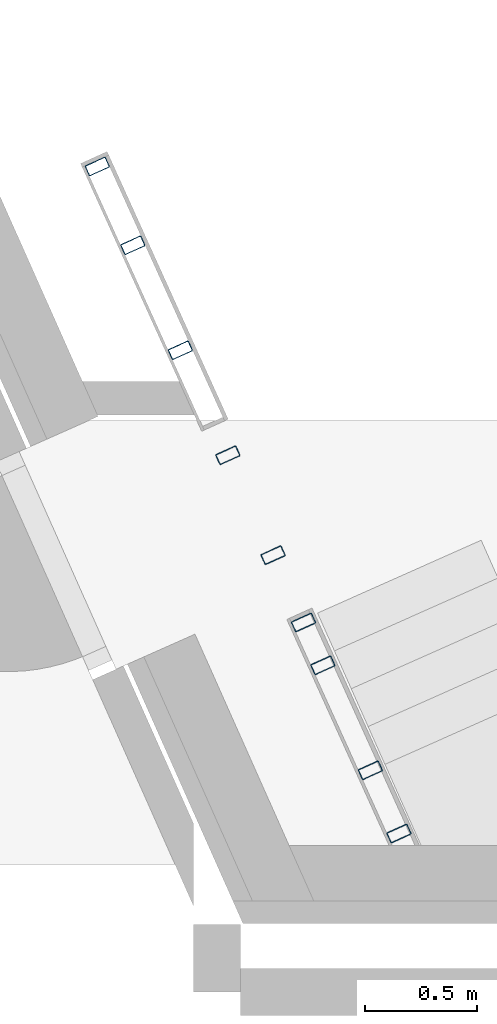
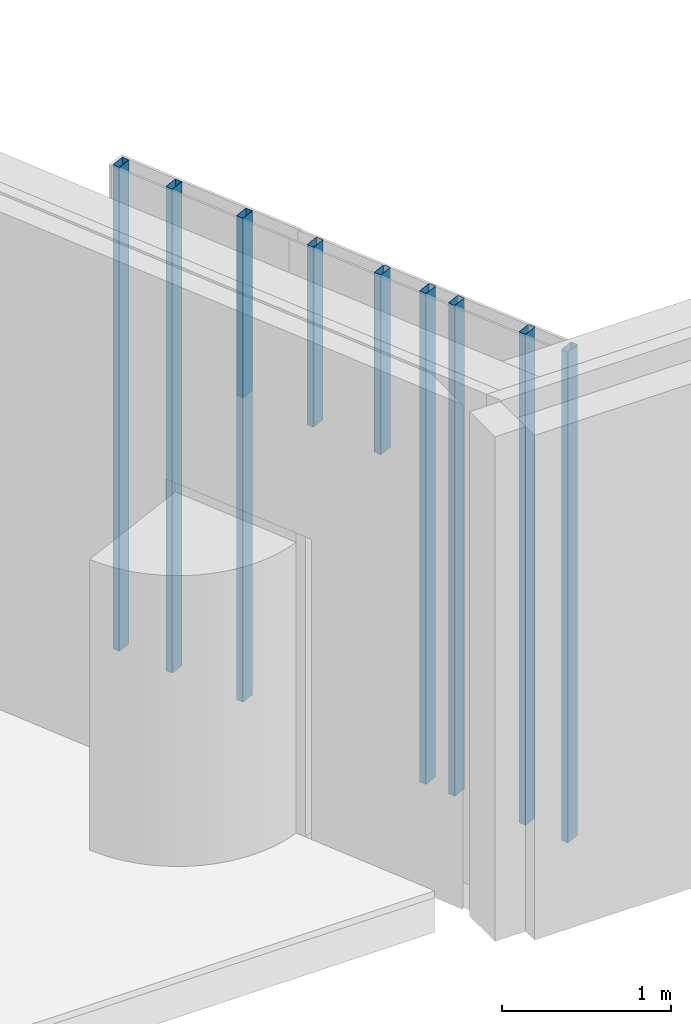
# One storey, part 1 of 16: 10 columns.
"""IFC2X3 building model written with IfcOpenShell, lengths in millimetres."""

import ifcopenshell
import ifcopenshell.guid

model = None  # the IFC model being written
_history = None  # IfcOwnerHistory: only IFC2X3 demands one
_inside = {}  # id of a spatial element -> (the spatial element, [elements in it])
_under = {}  # id of a project, library or spatial element -> (it, [spatial elements below it])
_declared = {}  # id of a project -> (the project, [libraries it declares])
_typed = {}  # id of a type object -> (the type object, [elements of that type])
_made_of = {}  # id of a material, layer set ... -> (it, [elements and type objects made of it])


def new_model(schema):
    """Start an empty IFC model of exactly this schema.

    Asked for "IFC4X3", IfcOpenShell would pick the latest addendum, in which some entities
    have other attributes; the version numbers below select the first issue.
    IFC2X3 requires an IfcOwnerHistory on every rooted entity: one is made here for all.
    """
    global model, _history
    if schema == "IFC4X3":
        model = ifcopenshell.file(schema_version=(4, 3, 0, 0))
    else:
        model = ifcopenshell.file(schema=schema)
    _inside.clear()
    _under.clear()
    _declared.clear()
    _typed.clear()
    _made_of.clear()
    _history = None
    if model.schema == "IFC2X3":
        org = make("IfcOrganization", Name="unknown")
        user = make(
            "IfcPersonAndOrganization",
            ThePerson=make("IfcPerson", FamilyName="unknown"),
            TheOrganization=org,
        )
        app = make(
            "IfcApplication",
            ApplicationDeveloper=org,
            Version="unknown",
            ApplicationFullName="unknown",
            ApplicationIdentifier="unknown",
        )
        _history = make(
            "IfcOwnerHistory",
            OwningUser=user,
            OwningApplication=app,
            ChangeAction="ADDED",
            CreationDate=0,
        )
    return model


def make(cls, **values):
    """One entity of the class cls with the attributes given. An attribute that is None is left unset."""
    return model.create_entity(
        cls, **{name: value for name, value in values.items() if value is not None}
    )


def entity(cls, *values):
    """Any entity or typed value of the class cls, its attributes in the order of the schema. None: left unset."""
    e = model.create_entity(cls)
    for i, value in enumerate(values):
        if value is not None:
            e[i] = value
    return e


def rooted(cls, **values):
    """An entity with a GlobalId (a new one), such as an element, a storey or a relation."""
    return make(cls, GlobalId=ifcopenshell.guid.new(), OwnerHistory=_history, **values)


def si_unit(unit_type, name, prefix=None):
    """IfcSIUnit, for example si_unit("LENGTHUNIT", "METRE", prefix="MILLI")."""
    return make("IfcSIUnit", UnitType=unit_type, Prefix=prefix, Name=name)


def converted_unit(unit_type, name, factor, base, dimensions=None, offset=None):
    """IfcConversionBasedUnit, such as the inch: factor (a typed value) times the base unit."""
    return make(
        "IfcConversionBasedUnit"
        if offset is None
        else "IfcConversionBasedUnitWithOffset",
        ConversionOffset=offset,
        Dimensions=None
        if dimensions is None
        else entity("IfcDimensionalExponents", *dimensions),
        UnitType=unit_type,
        Name=name,
        ConversionFactor=make(
            "IfcMeasureWithUnit", ValueComponent=factor, UnitComponent=base
        ),
    )


def derived_unit(unit_type, elements):
    """IfcDerivedUnit: a product of units, each with its exponent."""
    return make(
        "IfcDerivedUnit",
        Elements=[
            make("IfcDerivedUnitElement", Unit=unit, Exponent=power)
            for unit, power in elements
        ],
        UnitType=unit_type,
    )


def assignment(units):
    """IfcUnitAssignment: the units of a project."""
    return None if units is None else make("IfcUnitAssignment", Units=units)


def point(xyz):
    """IfcCartesianPoint."""
    return None if xyz is None else make("IfcCartesianPoint", Coordinates=xyz)


def direction(xyz):
    """IfcDirection."""
    return None if xyz is None else make("IfcDirection", DirectionRatios=xyz)


def frame(location, z_axis=None, x_axis=None):
    """IfcAxis2Placement3D, a coordinate frame: its origin and axes. An axis left out is left unset."""
    return make(
        "IfcAxis2Placement3D",
        Location=point(location),
        Axis=direction(z_axis),
        RefDirection=direction(x_axis),
    )


def frame_2d(location, x_axis=None):
    """IfcAxis2Placement2D, a coordinate frame in the plane: its origin and x axis."""
    return make(
        "IfcAxis2Placement2D", Location=point(location), RefDirection=direction(x_axis)
    )


def origin():
    """The frame at (0, 0, 0) with its axes left unset."""
    return frame((0.0, 0.0, 0.0))


def place(relative_to, where):
    """IfcLocalPlacement: puts the frame where relative to a parent placement (None: the world)."""
    return make(
        "IfcLocalPlacement", PlacementRelTo=relative_to, RelativePlacement=where
    )


def context(
    kind, dimensions, precision=None, world=None, true_north=None, identifier=None
):
    """IfcGeometricRepresentationContext, for example the 3D "Model" context."""
    return make(
        "IfcGeometricRepresentationContext",
        ContextIdentifier=identifier,
        ContextType=kind,
        CoordinateSpaceDimension=dimensions,
        Precision=precision,
        WorldCoordinateSystem=world,
        TrueNorth=true_north,
    )


def subcontext(parent, identifier, kind, view, scale=None):
    """IfcGeometricRepresentationSubContext, for example "Body" below "Model"."""
    return make(
        "IfcGeometricRepresentationSubContext",
        ContextIdentifier=identifier,
        ContextType=kind,
        ParentContext=parent,
        TargetScale=scale,
        TargetView=view,
    )


def project(units=None, contexts=None):
    """IfcProject with its units and contexts."""
    return rooted(
        "IfcProject",
        Name="project",
        RepresentationContexts=contexts,
        UnitsInContext=assignment(units),
    )


def spatial(cls, under=None, at=None, **own):
    """A site, building, storey or space (cls), placed at a placement, below another one or the project."""
    s = rooted(cls, ObjectPlacement=at, **own)
    if under is not None:
        _under.setdefault(under.id(), (under, []))[1].append(s)
    return s


def polyline(points):
    """IfcPolyline through the points."""
    return make("IfcPolyline", Points=[point(p) for p in points])


def circle_curve(where, radius):
    """IfcCircle in the frame where."""
    return make("IfcCircle", Position=where, Radius=radius)


def parameter(value):
    """IfcParameterValue: where a trimmed curve begins or ends, as a parameter of its basis curve."""
    return model.create_entity("IfcParameterValue", value)


def trimmed(basis, trim1, trim2, sense, master):
    """IfcTrimmedCurve: the piece of a basis curve between two trims."""
    return make(
        "IfcTrimmedCurve",
        BasisCurve=basis,
        Trim1=trim1,
        Trim2=trim2,
        SenseAgreement=sense,
        MasterRepresentation=master,
    )


def segment(curve, same_sense, transition):
    """IfcCompositeCurveSegment."""
    return make(
        "IfcCompositeCurveSegment",
        Transition=transition,
        SameSense=same_sense,
        ParentCurve=curve,
    )


def composite_curve(segments, self_intersect=None):
    """IfcCompositeCurve: segments joined end to end."""
    return make("IfcCompositeCurve", Segments=segments, SelfIntersect=self_intersect)


def outline(outer, holes=None, kind="AREA"):
    """IfcArbitraryClosedProfileDef: a profile drawn as a closed curve; with holes, ...WithVoids."""
    if holes is None:
        return make("IfcArbitraryClosedProfileDef", ProfileType=kind, OuterCurve=outer)
    return make(
        "IfcArbitraryProfileDefWithVoids",
        ProfileType=kind,
        OuterCurve=outer,
        InnerCurves=holes,
    )


def extrude(swept, where, along, depth):
    """IfcExtrudedAreaSolid: the profile swept, set in the frame where, extruded along a direction by depth."""
    return make(
        "IfcExtrudedAreaSolid",
        SweptArea=swept,
        Position=where,
        ExtrudedDirection=direction(along),
        Depth=depth,
    )


def shape(context_of_items, identifier, shape_type, items):
    """IfcShapeRepresentation: the items that make up one representation, for example the "Body"."""
    return make(
        "IfcShapeRepresentation",
        ContextOfItems=context_of_items,
        RepresentationIdentifier=identifier,
        RepresentationType=shape_type,
        Items=items,
    )


def source(mapping_origin, context_of_items, identifier, shape_type, items):
    """IfcRepresentationMap: a shape defined once, which mapped items show again and again."""
    return make(
        "IfcRepresentationMap",
        MappingOrigin=mapping_origin,
        MappedRepresentation=shape(context_of_items, identifier, shape_type, items),
    )


def transform(
    local_origin,
    x_axis=None,
    y_axis=None,
    z_axis=None,
    scale=None,
    scale2=None,
    scale3=None,
    uniform=True,
):
    """IfcCartesianTransformationOperator3D, or its non-uniform kind. x_axis, y_axis, z_axis: its Axis1, 2, 3."""
    if uniform:
        return make(
            "IfcCartesianTransformationOperator3D",
            Axis1=direction(x_axis),
            Axis2=direction(y_axis),
            LocalOrigin=point(local_origin),
            Scale=scale,
            Axis3=direction(z_axis),
        )
    return make(
        "IfcCartesianTransformationOperator3DnonUniform",
        Axis1=direction(x_axis),
        Axis2=direction(y_axis),
        LocalOrigin=point(local_origin),
        Scale=scale,
        Axis3=direction(z_axis),
        Scale2=scale2,
        Scale3=scale3,
    )


def mapped(mapping_source, mapping_target):
    """IfcMappedItem: shows the shape of a source again, moved by a transform."""
    return make(
        "IfcMappedItem", MappingSource=mapping_source, MappingTarget=mapping_target
    )


def material(Name=None, Category=None):
    """IfcMaterial."""
    return make("IfcMaterial", Name=Name, Category=Category)


def made_of(thing, what):
    """Note that an element or type object is made of a material, layer set ...; save() writes the relation."""
    if what is not None:
        _made_of.setdefault(what.id(), (what, []))[1].append(thing)
    return thing


def type_object(cls, material=None, **own):
    """A type object (cls), such as IfcWallType, which elements share."""
    return made_of(rooted(cls, **own), material)


def type_shapes(of_type, sources):
    """Give a type object the sources (RepresentationMaps) that its elements show as mapped items."""
    of_type.RepresentationMaps = sources


def element(
    cls,
    number,
    at=None,
    inside=None,
    cuts=None,
    type_object=None,
    material=None,
    context=None,
    identifier="Body",
    shape_type=None,
    held_by="IfcProductDefinitionShape",
    body=None,
    shapes=None,
    **own,
):
    """One element of the class cls, such as IfcWall. Its Tag is "e" and its number.

    at: its placement. inside: the storey or other place that contains it. cuts: it is an
    opening in that element (IfcRelVoidsElement). A single representation is given by context,
    identifier, shape_type and body (its items); several are given by shapes. held_by: the class
    of the entity that holds the representations. save() writes the other relations.
    """
    e = rooted(cls, Tag="e%d" % number, ObjectPlacement=at, **own)
    if body is not None:
        shapes = [shape(context, identifier, shape_type, body)]
    if shapes is not None:
        e.Representation = make(held_by, Representations=shapes)
    if inside is not None:
        _inside.setdefault(inside.id(), (inside, []))[1].append(e)
    if cuts is not None:
        rooted(
            "IfcRelVoidsElement", RelatingBuildingElement=cuts, RelatedOpeningElement=e
        )
    if type_object is not None:
        _typed.setdefault(type_object.id(), (type_object, []))[1].append(e)
    return made_of(e, material)


def aggregate(whole, parts):
    """IfcRelAggregates: a whole, such as a stair, and the parts it consists of."""
    return rooted("IfcRelAggregates", RelatingObject=whole, RelatedObjects=parts)


def save(model, path):
    """Write the relations noted so far, then the file.

    IfcRelAggregates (storeys below a building ...), IfcRelContainedInSpatialStructure (elements
    in a storey), IfcRelDefinesByType, IfcRelAssociatesMaterial and IfcRelDeclares: one each for
    every whole, place, type object, material and project.
    """
    for whole, parts in _under.values():
        aggregate(whole, parts)
    for where, things in _inside.values():
        rooted(
            "IfcRelContainedInSpatialStructure",
            RelatedElements=things,
            RelatingStructure=where,
        )
    for kind, things in _typed.values():
        rooted("IfcRelDefinesByType", RelatedObjects=things, RelatingType=kind)
    for what, things in _made_of.values():
        rooted("IfcRelAssociatesMaterial", RelatedObjects=things, RelatingMaterial=what)
    for by, libraries in _declared.values():
        rooted("IfcRelDeclares", RelatingContext=by, RelatedDefinitions=libraries)
    model.write(path)


model = new_model("IFC2X3")

# Units and contexts
model_context = context("Model", 3, precision=0.01, world=origin(), true_north=direction((6.123031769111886e-17, 1.0)))
body_context = subcontext(model_context, "Body", "Model", "MODEL_VIEW")
ifc_project = project(units=[si_unit("LENGTHUNIT", "METRE", prefix="MILLI"), si_unit("AREAUNIT", "SQUARE_METRE"), si_unit("VOLUMEUNIT", "CUBIC_METRE"), converted_unit("PLANEANGLEUNIT", "DEGREE", entity("IfcRatioMeasure", 0.017453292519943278), si_unit("PLANEANGLEUNIT", "RADIAN"), dimensions=[0, 0, 0, 0, 0, 0, 0]), si_unit("MASSUNIT", "GRAM", prefix="KILO"), derived_unit("MASSDENSITYUNIT", [(si_unit("MASSUNIT", "GRAM", prefix="KILO"), 1), (si_unit("LENGTHUNIT", "METRE"), -3)]), derived_unit("MOMENTOFINERTIAUNIT", [(si_unit("LENGTHUNIT", "METRE"), 4)]), si_unit("TIMEUNIT", "SECOND"), si_unit("FREQUENCYUNIT", "HERTZ"), si_unit("THERMODYNAMICTEMPERATUREUNIT", "DEGREE_CELSIUS"), derived_unit("THERMALTRANSMITTANCEUNIT", [(si_unit("MASSUNIT", "GRAM", prefix="KILO"), 1), (si_unit("THERMODYNAMICTEMPERATUREUNIT", "KELVIN"), -1), (si_unit("TIMEUNIT", "SECOND"), -3)]), derived_unit("VOLUMETRICFLOWRATEUNIT", [(si_unit("LENGTHUNIT", "METRE"), 3), (si_unit("TIMEUNIT", "SECOND"), -1)]), derived_unit("MASSFLOWRATEUNIT", [(si_unit("MASSUNIT", "GRAM", prefix="KILO"), 1), (si_unit("TIMEUNIT", "SECOND"), -1)]), derived_unit("ROTATIONALFREQUENCYUNIT", [(si_unit("TIMEUNIT", "SECOND"), -1)]), si_unit("ELECTRICCURRENTUNIT", "AMPERE"), si_unit("ELECTRICVOLTAGEUNIT", "VOLT"), si_unit("POWERUNIT", "WATT"), si_unit("FORCEUNIT", "NEWTON", prefix="KILO"), si_unit("ILLUMINANCEUNIT", "LUX"), si_unit("LUMINOUSFLUXUNIT", "LUMEN"), si_unit("LUMINOUSINTENSITYUNIT", "CANDELA"), derived_unit("USERDEFINED", [(si_unit("MASSUNIT", "GRAM", prefix="KILO"), -1), (si_unit("LENGTHUNIT", "METRE"), -2), (si_unit("TIMEUNIT", "SECOND"), 3), (si_unit("LUMINOUSFLUXUNIT", "LUMEN"), 1)]), derived_unit("SOUNDPOWERUNIT", [(si_unit("MASSUNIT", "GRAM", prefix="KILO"), 1), (si_unit("LENGTHUNIT", "METRE"), 2), (si_unit("TIMEUNIT", "SECOND"), -3)]), derived_unit("SOUNDPRESSUREUNIT", [(si_unit("MASSUNIT", "GRAM", prefix="KILO"), 1), (si_unit("LENGTHUNIT", "METRE"), -1), (si_unit("TIMEUNIT", "SECOND"), -2)]), derived_unit("LINEARVELOCITYUNIT", [(si_unit("LENGTHUNIT", "METRE"), 1), (si_unit("TIMEUNIT", "SECOND"), -1)]), si_unit("PRESSUREUNIT", "PASCAL"), derived_unit("USERDEFINED", [(si_unit("LENGTHUNIT", "METRE"), -2), (si_unit("MASSUNIT", "GRAM", prefix="KILO"), 1), (si_unit("TIMEUNIT", "SECOND"), -2)]), derived_unit("LINEARFORCEUNIT", [(si_unit("MASSUNIT", "GRAM", prefix="KILO"), 1), (si_unit("LENGTHUNIT", "METRE"), 1), (si_unit("TIMEUNIT", "SECOND"), -2), (si_unit("LENGTHUNIT", "METRE"), -1)]), derived_unit("PLANARFORCEUNIT", [(si_unit("MASSUNIT", "GRAM", prefix="KILO"), 1), (si_unit("LENGTHUNIT", "METRE"), 1), (si_unit("TIMEUNIT", "SECOND"), -2), (si_unit("LENGTHUNIT", "METRE"), -2)])], contexts=[model_context])

# Site, building, storey
site_placement = place(None, frame((-10000.0, -10000.0, 0.0)))
site = spatial("IfcSite", under=ifc_project, at=site_placement, Name="Default", CompositionType="ELEMENT")
building_placement = place(site_placement, origin())
building = spatial("IfcBuilding", under=site, at=building_placement, CompositionType="ELEMENT")
storey_placement = place(building_placement, frame((0.0, 0.0, 9000.0)))
storey = spatial("IfcBuildingStorey", under=building, at=storey_placement, Name="02 2e verdieping", CompositionType="ELEMENT", Elevation=9000.0)

# Columns
ifc_material = material(Name="Metal - Steel - 345 MPa")
column_type_1 = type_object("IfcColumnType", Name="Kokerprofielen_ITX(c):K100/50/2.5", PredefinedType="COLUMN", material=ifc_material)
shared_shape_1 = source(origin(), body_context, "Body", "SweptSolid", [
    extrude(outline(composite_curve([segment(polyline([(-45.0, -25.0), (45.0, -25.0)]), True, "CONTINUOUS"), segment(trimmed(circle_curve(frame_2d((45.0, -20.0), x_axis=(0.0, -1.0)), 5.000000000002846), [parameter(4.0711099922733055e-13)], [parameter(90.00000000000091)], True, "PARAMETER"), True, "CONTINUOUS"), segment(polyline([(50.0, -20.0), (50.0, 20.0)]), True, "CONTINUOUS"), segment(trimmed(circle_curve(frame_2d((45.0, 20.0), x_axis=(0.0, -1.0)), 4.999999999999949), [parameter(90.00000000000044)], [parameter(179.9999999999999)], True, "PARAMETER"), True, "CONTINUOUS"), segment(polyline([(45.0, 25.0), (-45.0, 25.0)]), True, "CONTINUOUS"), segment(trimmed(circle_curve(frame_2d((-45.0, 20.0), x_axis=(0.0, -1.0)), 4.99999999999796), [parameter(180.0)], [parameter(269.9999999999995)], True, "PARAMETER"), True, "CONTINUOUS"), segment(polyline([(-50.0, 20.0), (-50.0, -20.0)]), True, "CONTINUOUS"), segment(trimmed(circle_curve(frame_2d((-45.0, -20.0), x_axis=(0.0, -1.0)), 4.999999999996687), [parameter(270.00000000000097)], [parameter(1.1704441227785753e-12)], True, "PARAMETER"), True, "CONTINUOUS")], self_intersect=False), holes=[composite_curve([segment(trimmed(circle_curve(frame_2d((-45.0, 20.0), x_axis=(0.0, -1.0)), 2.500000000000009), [parameter(180.0000000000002)], [parameter(269.99999999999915)], True, "PARAMETER"), False, "CONTINUOUS"), segment(polyline([(-45.0, 22.50000000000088), (45.0, 22.500000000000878)]), True, "CONTINUOUS"), segment(trimmed(circle_curve(frame_2d((45.0, 20.0), x_axis=(0.0, -1.0)), 2.5000000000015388), [parameter(90.0000000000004)], [parameter(180.00000000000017)], True, "PARAMETER"), False, "CONTINUOUS"), segment(polyline([(47.500000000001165, 20.0), (47.50000000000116, -20.0)]), True, "CONTINUOUS"), segment(trimmed(circle_curve(frame_2d((45.0, -20.0), x_axis=(0.0, -1.0)), 2.4999999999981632), [parameter(4.0711099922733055e-13)], [parameter(90.0000000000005)], True, "PARAMETER"), False, "CONTINUOUS"), segment(polyline([(45.0, -22.49999999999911), (-45.0, -22.4999999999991)]), True, "CONTINUOUS"), segment(trimmed(circle_curve(frame_2d((-45.0, -20.0), x_axis=(0.0, -1.0)), 2.49999999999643), [parameter(269.9999999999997)], [parameter(359.9999999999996)], True, "PARAMETER"), False, "CONTINUOUS"), segment(polyline([(-47.4999999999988, -20.0), (-47.4999999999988, 20.0)]), True, "CONTINUOUS")], self_intersect=False)]), frame((0.0, 0.0, 9000.0), z_axis=(0.0, 0.0, 1.0), x_axis=(0.0, 1.0, 0.0)), (0.0, 0.0, 1.0), 3499.999999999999),
])
type_shapes(column_type_1, [shared_shape_1])
column_1_placement = place(storey_placement, frame((28798.69622552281, 30336.873582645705, -9000.0), z_axis=(0.0, 0.0, 1.0), x_axis=(0.41221137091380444, -0.9110882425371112, 0.0)))
element("IfcColumn", 1, at=column_1_placement, inside=storey, type_object=column_type_1, material=ifc_material, Name="Kokerprofielen_ITX(c):K100/50/2.5", ObjectType="Kokerprofielen_ITX(c):K100/50/2.5", context=body_context, shape_type="MappedRepresentation", body=[
    mapped(shared_shape_1, transform((0.0, 0.0, 0.0), scale=1.0)),
])
column_type_2 = type_object("IfcColumnType", Name="Kokerprofielen_ITX(c):K100/50/2.5", PredefinedType="COLUMN", material=ifc_material)
shared_shape_2 = source(origin(), body_context, "Body", "SweptSolid", [
    extrude(outline(composite_curve([segment(trimmed(circle_curve(frame_2d((20.0, -45.0), x_axis=(1.0, 0.0)), 4.999999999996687), [parameter(270.0000000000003)], [parameter(4.0711099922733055e-13)], True, "PARAMETER"), True, "CONTINUOUS"), segment(polyline([(25.0, -45.0), (25.0, 45.0)]), True, "CONTINUOUS"), segment(trimmed(circle_curve(frame_2d((20.0, 45.0), x_axis=(1.0, 0.0)), 5.000000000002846), [parameter(4.0711099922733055e-13)], [parameter(90.00000000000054)], True, "PARAMETER"), True, "CONTINUOUS"), segment(polyline([(20.0, 50.0), (-20.0, 50.0)]), True, "CONTINUOUS"), segment(trimmed(circle_curve(frame_2d((-20.0, 45.0), x_axis=(1.0, 0.0)), 4.999999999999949), [parameter(90.00000000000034)], [parameter(179.99999999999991)], True, "PARAMETER"), True, "CONTINUOUS"), segment(polyline([(-25.0, 45.0), (-25.0, -45.0)]), True, "CONTINUOUS"), segment(trimmed(circle_curve(frame_2d((-20.0, -45.0), x_axis=(1.0, 0.0)), 4.99999999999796), [parameter(179.99999999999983)], [parameter(269.9999999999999)], True, "PARAMETER"), True, "CONTINUOUS"), segment(polyline([(-20.0, -50.0), (20.0, -50.0)]), True, "CONTINUOUS")], self_intersect=False), holes=[composite_curve([segment(polyline([(20.0, -47.4999999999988), (-20.0, -47.4999999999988)]), True, "CONTINUOUS"), segment(trimmed(circle_curve(frame_2d((-20.0, -45.0), x_axis=(1.0, 0.0)), 2.500000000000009), [parameter(180.00000000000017)], [parameter(269.9999999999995)], True, "PARAMETER"), False, "CONTINUOUS"), segment(polyline([(-22.500000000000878, -45.0), (-22.500000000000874, 45.0)]), True, "CONTINUOUS"), segment(trimmed(circle_curve(frame_2d((-20.0, 45.0), x_axis=(1.0, 0.0)), 2.5000000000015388), [parameter(89.99999999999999)], [parameter(179.9999999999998)], True, "PARAMETER"), False, "CONTINUOUS"), segment(polyline([(-20.0, 47.50000000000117), (20.0, 47.50000000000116)]), True, "CONTINUOUS"), segment(trimmed(circle_curve(frame_2d((20.0, 45.0), x_axis=(1.0, 0.0)), 2.4999999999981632), [parameter(0.0)], [parameter(90.00000000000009)], True, "PARAMETER"), False, "CONTINUOUS"), segment(polyline([(22.499999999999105, 45.0), (22.499999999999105, -45.0)]), True, "CONTINUOUS"), segment(trimmed(circle_curve(frame_2d((20.0, -45.0), x_axis=(1.0, 0.0)), 2.49999999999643), [parameter(270.0000000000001)], [parameter(0.0)], True, "PARAMETER"), False, "CONTINUOUS")], self_intersect=False)]), frame((0.0, 0.0, 11200.0)), (0.0, 0.0, 1.0), 1299.999999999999),
])
type_shapes(column_type_2, [shared_shape_2])
for number, where, z_axis, x_axis in (
    (2, (28798.69622552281, 30336.873582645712, -9000.0), (0.0, 0.0, 1.0), (0.41221137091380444, -0.9110882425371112, 0.0)),
    (3, (29010.95386660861, 29867.732130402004, -9000.0), (0.0, 0.0, 1.0), (0.41221137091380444, -0.9110882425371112, 0.0)),
    (4, (29212.96865329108, 29421.229898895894, -9000.0), (0.0, 0.0, 1.0), (0.41221137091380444, -0.9110882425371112, 0.0)),
):
    element("IfcColumn", number, at=place(storey_placement, frame(where, z_axis=z_axis, x_axis=x_axis)), inside=storey, type_object=column_type_2, material=ifc_material, Name="Kokerprofielen_ITX(c):K100/50/2.5", ObjectType="Kokerprofielen_ITX(c):K100/50/2.5", context=body_context, shape_type="MappedRepresentation", body=[
        mapped(shared_shape_2, transform((0.0, 0.0, 0.0), scale=1.0)),
    ])
column_type_3 = type_object("IfcColumnType", Name="Kokerprofielen_ITX(c):K100/50/2.5", PredefinedType="COLUMN", material=ifc_material)
shared_shape_3 = source(origin(), body_context, "Body", "SweptSolid", [
    extrude(outline(composite_curve([segment(trimmed(circle_curve(frame_2d((20.0, -45.0), x_axis=(1.0, 0.0)), 4.999999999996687), [parameter(270.0000000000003)], [parameter(4.0711099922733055e-13)], True, "PARAMETER"), True, "CONTINUOUS"), segment(polyline([(25.0, -45.0), (25.0, 45.0)]), True, "CONTINUOUS"), segment(trimmed(circle_curve(frame_2d((20.0, 45.0), x_axis=(1.0, 0.0)), 5.000000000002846), [parameter(4.0711099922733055e-13)], [parameter(90.00000000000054)], True, "PARAMETER"), True, "CONTINUOUS"), segment(polyline([(20.0, 50.0), (-20.0, 50.0)]), True, "CONTINUOUS"), segment(trimmed(circle_curve(frame_2d((-20.0, 45.0), x_axis=(1.0, 0.0)), 4.999999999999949), [parameter(90.00000000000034)], [parameter(179.99999999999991)], True, "PARAMETER"), True, "CONTINUOUS"), segment(polyline([(-25.0, 45.0), (-25.0, -45.0)]), True, "CONTINUOUS"), segment(trimmed(circle_curve(frame_2d((-20.0, -45.0), x_axis=(1.0, 0.0)), 4.99999999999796), [parameter(179.99999999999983)], [parameter(269.9999999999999)], True, "PARAMETER"), True, "CONTINUOUS"), segment(polyline([(-20.0, -50.0), (20.0, -50.0)]), True, "CONTINUOUS")], self_intersect=False), holes=[composite_curve([segment(polyline([(20.0, -47.4999999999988), (-20.0, -47.4999999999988)]), True, "CONTINUOUS"), segment(trimmed(circle_curve(frame_2d((-20.0, -45.0), x_axis=(1.0, 0.0)), 2.500000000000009), [parameter(180.00000000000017)], [parameter(269.9999999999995)], True, "PARAMETER"), False, "CONTINUOUS"), segment(polyline([(-22.500000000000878, -45.0), (-22.500000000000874, 45.0)]), True, "CONTINUOUS"), segment(trimmed(circle_curve(frame_2d((-20.0, 45.0), x_axis=(1.0, 0.0)), 2.5000000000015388), [parameter(89.99999999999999)], [parameter(179.9999999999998)], True, "PARAMETER"), False, "CONTINUOUS"), segment(polyline([(-20.0, 47.50000000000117), (20.0, 47.50000000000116)]), True, "CONTINUOUS"), segment(trimmed(circle_curve(frame_2d((20.0, 45.0), x_axis=(1.0, 0.0)), 2.4999999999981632), [parameter(0.0)], [parameter(90.00000000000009)], True, "PARAMETER"), False, "CONTINUOUS"), segment(polyline([(22.499999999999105, 45.0), (22.499999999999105, -45.0)]), True, "CONTINUOUS"), segment(trimmed(circle_curve(frame_2d((20.0, -45.0), x_axis=(1.0, 0.0)), 2.49999999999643), [parameter(270.0000000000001)], [parameter(0.0)], True, "PARAMETER"), False, "CONTINUOUS")], self_intersect=False)]), frame((0.0, 0.0, 8950.0)), (0.0, 0.0, 1.0), 3549.9999999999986),
])
type_shapes(column_type_3, [shared_shape_3])
for number, where, z_axis, x_axis in (
    (5, (29348.998405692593, 29120.570778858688, -9000.0), (0.0, 0.0, 1.0), (0.41221137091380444, -0.9110882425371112, 0.0)),
    (6, (29435.562793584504, 28929.242247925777, -9000.0), (0.0, 0.0, 1.0), (0.41221137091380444, -0.9110882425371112, 0.0)),
    (7, (29647.851649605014, 28460.03180301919, -9000.0), (0.0, 0.0, 1.0), (0.41221137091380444, -0.9110882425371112, 0.0)),
    (8, (29775.637174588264, 28177.59444783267, -9000.0), (0.0, 0.0, 1.0), (0.41221137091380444, -0.9110882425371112, 0.0)),
):
    element("IfcColumn", number, at=place(storey_placement, frame(where, z_axis=z_axis, x_axis=x_axis)), inside=storey, type_object=column_type_3, material=ifc_material, Name="Kokerprofielen_ITX(c):K100/50/2.5", ObjectType="Kokerprofielen_ITX(c):K100/50/2.5", context=body_context, shape_type="MappedRepresentation", body=[
        mapped(shared_shape_3, transform((0.0, 0.0, 0.0), scale=1.0)),
    ])
column_type_4 = type_object("IfcColumnType", Name="Kokerprofielen_ITX(c):K100/50/2.5", PredefinedType="COLUMN", material=ifc_material)
shared_shape_4 = source(origin(), body_context, "Body", "SweptSolid", [
    extrude(outline(composite_curve([segment(polyline([(-45.0, -25.0), (45.0, -25.0)]), True, "CONTINUOUS"), segment(trimmed(circle_curve(frame_2d((45.0, -20.0), x_axis=(0.0, -1.0)), 5.000000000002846), [parameter(4.0711099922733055e-13)], [parameter(90.00000000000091)], True, "PARAMETER"), True, "CONTINUOUS"), segment(polyline([(50.0, -20.0), (50.0, 20.0)]), True, "CONTINUOUS"), segment(trimmed(circle_curve(frame_2d((45.0, 20.0), x_axis=(0.0, -1.0)), 4.999999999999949), [parameter(90.00000000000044)], [parameter(179.9999999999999)], True, "PARAMETER"), True, "CONTINUOUS"), segment(polyline([(45.0, 25.0), (-45.0, 25.0)]), True, "CONTINUOUS"), segment(trimmed(circle_curve(frame_2d((-45.0, 20.0), x_axis=(0.0, -1.0)), 4.99999999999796), [parameter(180.0)], [parameter(269.9999999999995)], True, "PARAMETER"), True, "CONTINUOUS"), segment(polyline([(-50.0, 20.0), (-50.0, -20.0)]), True, "CONTINUOUS"), segment(trimmed(circle_curve(frame_2d((-45.0, -20.0), x_axis=(0.0, -1.0)), 4.999999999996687), [parameter(270.00000000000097)], [parameter(1.1704441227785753e-12)], True, "PARAMETER"), True, "CONTINUOUS")], self_intersect=False), holes=[composite_curve([segment(trimmed(circle_curve(frame_2d((-45.0, 20.0), x_axis=(0.0, -1.0)), 2.500000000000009), [parameter(180.0000000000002)], [parameter(269.99999999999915)], True, "PARAMETER"), False, "CONTINUOUS"), segment(polyline([(-45.0, 22.50000000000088), (45.0, 22.500000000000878)]), True, "CONTINUOUS"), segment(trimmed(circle_curve(frame_2d((45.0, 20.0), x_axis=(0.0, -1.0)), 2.5000000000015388), [parameter(90.0000000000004)], [parameter(180.00000000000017)], True, "PARAMETER"), False, "CONTINUOUS"), segment(polyline([(47.500000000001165, 20.0), (47.50000000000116, -20.0)]), True, "CONTINUOUS"), segment(trimmed(circle_curve(frame_2d((45.0, -20.0), x_axis=(0.0, -1.0)), 2.4999999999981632), [parameter(4.0711099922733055e-13)], [parameter(90.0000000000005)], True, "PARAMETER"), False, "CONTINUOUS"), segment(polyline([(45.0, -22.49999999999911), (-45.0, -22.4999999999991)]), True, "CONTINUOUS"), segment(trimmed(circle_curve(frame_2d((-45.0, -20.0), x_axis=(0.0, -1.0)), 2.49999999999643), [parameter(269.9999999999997)], [parameter(359.9999999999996)], True, "PARAMETER"), False, "CONTINUOUS"), segment(polyline([(-47.4999999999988, -20.0), (-47.4999999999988, 20.0)]), True, "CONTINUOUS")], self_intersect=False)]), frame((0.0, 0.0, 9000.0), z_axis=(0.0, 0.0, 1.0), x_axis=(0.0, 1.0, 0.0)), (0.0, 0.0, 1.0), 3499.999999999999),
])
type_shapes(column_type_4, [shared_shape_4])
column_2_placement = place(storey_placement, frame((28586.43858443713, 30806.015034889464, -9000.0), z_axis=(0.0, 0.0, 1.0), x_axis=(0.41221137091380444, -0.9110882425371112, 0.0)))
element("IfcColumn", 9, at=column_2_placement, inside=storey, type_object=column_type_4, material=ifc_material, Name="Kokerprofielen_ITX(c):K100/50/2.5", ObjectType="Kokerprofielen_ITX(c):K100/50/2.5", context=body_context, shape_type="MappedRepresentation", body=[
    mapped(shared_shape_4, transform((0.0, 0.0, 0.0), scale=1.0)),
])
column_type_5 = type_object("IfcColumnType", Name="Kokerprofielen_ITX(c):K100/50/2.5", PredefinedType="COLUMN", material=ifc_material)
shared_shape_5 = source(origin(), body_context, "Body", "SweptSolid", [
    extrude(outline(composite_curve([segment(polyline([(-45.0, -25.0), (45.0, -25.0)]), True, "CONTINUOUS"), segment(trimmed(circle_curve(frame_2d((45.0, -20.0), x_axis=(0.0, -1.0)), 5.000000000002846), [parameter(4.0711099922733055e-13)], [parameter(90.00000000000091)], True, "PARAMETER"), True, "CONTINUOUS"), segment(polyline([(50.0, -20.0), (50.0, 20.0)]), True, "CONTINUOUS"), segment(trimmed(circle_curve(frame_2d((45.0, 20.0), x_axis=(0.0, -1.0)), 4.999999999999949), [parameter(90.00000000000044)], [parameter(179.9999999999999)], True, "PARAMETER"), True, "CONTINUOUS"), segment(polyline([(45.0, 25.0), (-45.0, 25.0)]), True, "CONTINUOUS"), segment(trimmed(circle_curve(frame_2d((-45.0, 20.0), x_axis=(0.0, -1.0)), 4.99999999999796), [parameter(180.0)], [parameter(269.9999999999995)], True, "PARAMETER"), True, "CONTINUOUS"), segment(polyline([(-50.0, 20.0), (-50.0, -20.0)]), True, "CONTINUOUS"), segment(trimmed(circle_curve(frame_2d((-45.0, -20.0), x_axis=(0.0, -1.0)), 4.999999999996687), [parameter(270.00000000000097)], [parameter(1.1704441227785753e-12)], True, "PARAMETER"), True, "CONTINUOUS")], self_intersect=False), holes=[composite_curve([segment(trimmed(circle_curve(frame_2d((-45.0, 20.0), x_axis=(0.0, -1.0)), 2.500000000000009), [parameter(180.0000000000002)], [parameter(269.99999999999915)], True, "PARAMETER"), False, "CONTINUOUS"), segment(polyline([(-45.0, 22.50000000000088), (45.0, 22.500000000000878)]), True, "CONTINUOUS"), segment(trimmed(circle_curve(frame_2d((45.0, 20.0), x_axis=(0.0, -1.0)), 2.5000000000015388), [parameter(90.0000000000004)], [parameter(180.00000000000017)], True, "PARAMETER"), False, "CONTINUOUS"), segment(polyline([(47.500000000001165, 20.0), (47.50000000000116, -20.0)]), True, "CONTINUOUS"), segment(trimmed(circle_curve(frame_2d((45.0, -20.0), x_axis=(0.0, -1.0)), 2.4999999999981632), [parameter(4.0711099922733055e-13)], [parameter(90.0000000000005)], True, "PARAMETER"), False, "CONTINUOUS"), segment(polyline([(45.0, -22.49999999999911), (-45.0, -22.4999999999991)]), True, "CONTINUOUS"), segment(trimmed(circle_curve(frame_2d((-45.0, -20.0), x_axis=(0.0, -1.0)), 2.49999999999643), [parameter(269.9999999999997)], [parameter(359.9999999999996)], True, "PARAMETER"), False, "CONTINUOUS"), segment(polyline([(-47.4999999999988, -20.0), (-47.4999999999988, 20.0)]), True, "CONTINUOUS")], self_intersect=False)]), frame((0.0, 0.0, 9000.0), z_axis=(0.0, 0.0, 1.0), x_axis=(0.0, 1.0, 0.0)), (0.0, 0.0, 1.0), 3499.999999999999),
])
type_shapes(column_type_5, [shared_shape_5])
column_3_placement = place(storey_placement, frame((28427.736320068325, 31157.99893773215, -9000.0), z_axis=(0.0, 0.0, 1.0), x_axis=(0.41221137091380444, -0.9110882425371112, 0.0)))
element("IfcColumn", 10, at=column_3_placement, inside=storey, type_object=column_type_5, material=ifc_material, Name="Kokerprofielen_ITX(c):K100/50/2.5", ObjectType="Kokerprofielen_ITX(c):K100/50/2.5", context=body_context, shape_type="MappedRepresentation", body=[
    mapped(shared_shape_5, transform((0.0, 0.0, 0.0), scale=1.0)),
])

save(model, "model.ifc")
